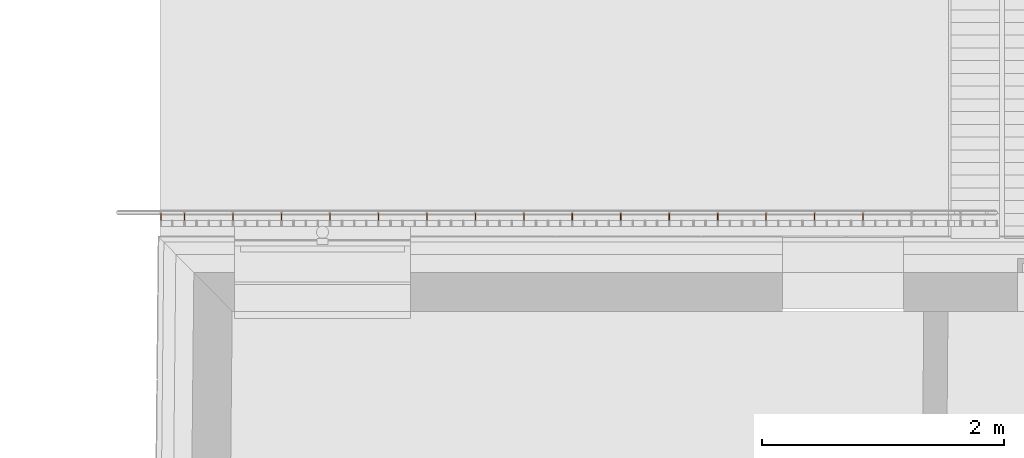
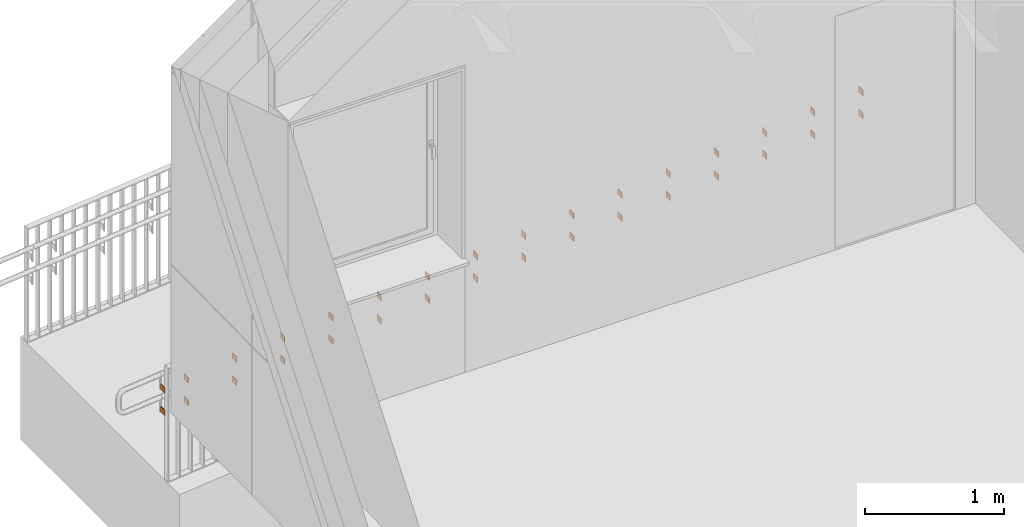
# One storey, part 377 of 418: 32 proxies.
"""IFC2X3 building model written with IfcOpenShell, lengths in millimetres."""

from ifc_helpers import new_model, entity, si_unit, converted_unit, derived_unit, money_unit, direction, frame, origin_with_axes, place, context, subcontext, project, spatial, polyline, outline, extrude, material, type_object, element, save


model = new_model("IFC2X3")

# Units and contexts
model_context = context("Model", 3, precision=0.01, world=origin_with_axes(), true_north=direction((0.0, 1.0)))
body_context = subcontext(model_context, "Body", "Model", "MODEL_VIEW")
ifc_project = project(units=[si_unit("LENGTHUNIT", "METRE", prefix="MILLI"), si_unit("AREAUNIT", "SQUARE_METRE"), si_unit("VOLUMEUNIT", "CUBIC_METRE"), converted_unit("PLANEANGLEUNIT", "DEGREE", entity("IfcPlaneAngleMeasure", 0.0174532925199), si_unit("PLANEANGLEUNIT", "RADIAN"), dimensions=[0, 0, 0, 0, 0, 0, 0]), si_unit("SOLIDANGLEUNIT", "STERADIAN"), money_unit("EUR"), converted_unit("TIMEUNIT", "Year", entity("IfcTimeMeasure", 31556926.0), si_unit("TIMEUNIT", "SECOND"), dimensions=[0, 0, 1, 0, 0, 0, 0]), si_unit("MASSUNIT", "GRAM", prefix="KILO"), si_unit("THERMODYNAMICTEMPERATUREUNIT", "DEGREE_CELSIUS"), si_unit("LUMINOUSINTENSITYUNIT", "LUMEN"), si_unit("ENERGYUNIT", "JOULE", prefix="MEGA"), derived_unit("THERMALCONDUCTANCEUNIT", [(si_unit("POWERUNIT", "WATT"), 1), (si_unit("LENGTHUNIT", "METRE"), -1), (si_unit("THERMODYNAMICTEMPERATUREUNIT", "KELVIN"), -1)]), derived_unit("SPECIFICHEATCAPACITYUNIT", [(si_unit("ENERGYUNIT", "JOULE"), 1), (si_unit("MASSUNIT", "GRAM", prefix="KILO"), -1), (si_unit("THERMODYNAMICTEMPERATUREUNIT", "KELVIN"), -1)]), derived_unit("MASSDENSITYUNIT", [(si_unit("MASSUNIT", "GRAM", prefix="KILO"), 1), (si_unit("VOLUMEUNIT", "CUBIC_METRE"), -1)])], contexts=[model_context])

# Site, building, storey
site_placement = place(None, origin_with_axes())
site = spatial("IfcSite", under=ifc_project, at=site_placement, Name="Paldiski mnt 245/1, Tallinn, Harjumaa", CompositionType="COMPLEX")
building_placement = place(site_placement, origin_with_axes())
building = spatial("IfcBuilding", under=site, at=building_placement, Name="RKAS Hoone üldnimetus (kasutust iseloomustav) -> IFC Project Manager -> SOLIBRI", CompositionType="ELEMENT")
storey_placement = place(building_placement, origin_with_axes())
storey = spatial("IfcBuildingStorey", under=building, at=storey_placement, Name="Esimene korrus", CompositionType="ELEMENT", Elevation=0.0)

# Proxies
ifc_material = material(Name="RAL 7011 Tumehall")
building_element_proxy_type = type_object("IfcBuildingElementProxyType", Name="RAL 7011 Tumehall 50", PredefinedType="NOTDEFINED")
proxy_1_placement = place(storey_placement, frame((-56120.6102369, 36519.8286725, 313.943433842), z_axis=(0.0, 0.0, 1.0), x_axis=(1.0, 0.0, 0.0)))
element("IfcBuildingElementProxy", 1, at=proxy_1_placement, inside=storey, type_object=building_element_proxy_type, material=ifc_material, Name="Piire", context=body_context, shape_type="SweptSolid", body=[
    extrude(outline(polyline([(0.0, 0.0), (0.0, 60.0), (-5.00000000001, 60.0), (-5.00000000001, 0.0), (0.0, 0.0)])), frame((0.0, 0.0, -50.0), z_axis=(0.0, 0.0, 1.0), x_axis=(1.0, 0.0, 0.0)), (0.0, 0.0, 1.0), 50.0),
])
proxy_2_placement = place(storey_placement, frame((-55320.5597323, 36519.8286725, 593.948553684), z_axis=(0.0, 0.0, 1.0), x_axis=(1.0, 0.0, 0.0)))
element("IfcBuildingElementProxy", 2, at=proxy_2_placement, inside=storey, type_object=building_element_proxy_type, material=ifc_material, Name="Piire", context=body_context, shape_type="SweptSolid", body=[
    extrude(outline(polyline([(0.0, 0.0), (0.0, 60.0), (-5.0, 60.0), (-5.0, 0.0), (0.0, 0.0)])), frame((0.0, 0.0, -50.0), z_axis=(0.0, 0.0, 1.0), x_axis=(1.0, 0.0, 0.0)), (0.0, 0.0, 1.0), 50.0),
])
proxy_3_placement = place(storey_placement, frame((-58920.66094, 36519.8286725, 33.9383634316), z_axis=(0.0, 0.0, 1.0), x_axis=(1.0, 0.0, 0.0)))
element("IfcBuildingElementProxy", 3, at=proxy_3_placement, inside=storey, type_object=building_element_proxy_type, material=ifc_material, Name="Piire", context=body_context, shape_type="SweptSolid", body=[
    extrude(outline(polyline([(0.0, 0.0), (0.0, 60.0), (-5.00000000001, 60.0), (-5.00000000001, 0.0), (0.0, 0.0)])), frame((0.0, 0.0, -50.0), z_axis=(0.0, 0.0, 1.0), x_axis=(1.0, 0.0, 0.0)), (0.0, 0.0, 1.0), 50.0),
])
for number, where, z_axis, x_axis in (
    (4, (-54920.6104354, 36519.8286725, 633.943483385), (0.0, 0.0, 1.0), (1.0, 0.0, 0.0)),
    (5, (-58920.6611385, 36519.8286725, 233.938412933), (0.0, 0.0, 1.0), (1.0, 0.0, 0.0)),
):
    element("IfcBuildingElementProxy", number, at=place(storey_placement, frame(where, z_axis=z_axis, x_axis=x_axis)), inside=storey, type_object=building_element_proxy_type, material=ifc_material, Name="Piire", context=body_context, shape_type="SweptSolid", body=[
        extrude(outline(polyline([(0.0, 0.0), (0.0, 60.0), (-5.0, 60.0), (-5.0, 0.0), (0.0, 0.0)])), frame((0.0, 0.0, -50.0), z_axis=(0.0, 0.0, 1.0), x_axis=(1.0, 0.0, 0.0)), (0.0, 0.0, 1.0), 50.0),
    ])
proxy_4_placement = place(storey_placement, frame((-54520.5595337, 36519.8286725, 473.948504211), z_axis=(0.0, 0.0, 1.0), x_axis=(1.0, 0.0, 0.0)))
element("IfcBuildingElementProxy", 6, at=proxy_4_placement, inside=storey, type_object=building_element_proxy_type, material=ifc_material, Name="Piire", context=body_context, shape_type="SweptSolid", body=[
    extrude(outline(polyline([(0.0, 0.0), (0.0, 60.0), (-5.00000000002, 60.0), (-5.00000000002, 0.0), (0.0, 0.0)])), frame((0.0, 0.0, -50.0), z_axis=(0.0, 0.0, 1.0), x_axis=(1.0, 0.0, 0.0)), (0.0, 0.0, 1.0), 50.0),
])
proxy_5_placement = place(storey_placement, frame((-58120.6611385, 36519.8286725, 313.938412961), z_axis=(0.0, 0.0, 1.0), x_axis=(1.0, 0.0, 0.0)))
element("IfcBuildingElementProxy", 7, at=proxy_5_placement, inside=storey, type_object=building_element_proxy_type, material=ifc_material, Name="Piire", context=body_context, shape_type="SweptSolid", body=[
    extrude(outline(polyline([(0.0, 0.0), (0.0, 60.0), (-5.0, 60.0), (-5.0, 0.0), (0.0, 0.0)])), frame((0.0, 0.0, -50.0), z_axis=(0.0, 0.0, 1.0), x_axis=(1.0, 0.0, 0.0)), (0.0, 0.0, 1.0), 50.0),
])
for number, where, z_axis, x_axis in (
    (8, (-58120.66094, 36519.8286725, 113.93836346), (0.0, 0.0, 1.0), (1.0, 0.0, 0.0)),
    (9, (-55720.6104354, 36519.8286725, 553.943483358), (0.0, 0.0, 1.0), (1.0, 0.0, 0.0)),
):
    element("IfcBuildingElementProxy", number, at=place(storey_placement, frame(where, z_axis=z_axis, x_axis=x_axis)), inside=storey, type_object=building_element_proxy_type, material=ifc_material, Name="Piire", context=body_context, shape_type="SweptSolid", body=[
        extrude(outline(polyline([(0.0, 0.0), (0.0, 60.0), (-5.00000000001, 60.0), (-5.00000000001, 0.0), (0.0, 0.0)])), frame((0.0, 0.0, -50.0), z_axis=(0.0, 0.0, 1.0), x_axis=(1.0, 0.0, 0.0)), (0.0, 0.0, 1.0), 50.0),
    ])
proxy_6_placement = place(storey_placement, frame((-55720.6102369, 36519.8286725, 353.943433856), z_axis=(0.0, 0.0, 1.0), x_axis=(1.0, 0.0, 0.0)))
element("IfcBuildingElementProxy", 10, at=proxy_6_placement, inside=storey, type_object=building_element_proxy_type, material=ifc_material, Name="Piire", context=body_context, shape_type="SweptSolid", body=[
    extrude(outline(polyline([(0.0, 0.0), (0.0, 60.0), (-5.00000000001, 60.0), (-5.0, 0.0), (0.0, 0.0)])), frame((0.0, 0.0, -50.0), z_axis=(0.0, 0.0, 1.0), x_axis=(1.0, 0.0, 0.0)), (0.0, 0.0, 1.0), 50.0),
])
for number, where, z_axis, x_axis in (
    (11, (-54520.5597323, 36519.8286725, 673.948553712), (0.0, 0.0, 1.0), (1.0, 0.0, 0.0)),
    (12, (-58520.6104354, 36519.8286725, 273.94348326), (0.0, 0.0, 1.0), (1.0, 0.0, 0.0)),
):
    element("IfcBuildingElementProxy", number, at=place(storey_placement, frame(where, z_axis=z_axis, x_axis=x_axis)), inside=storey, type_object=building_element_proxy_type, material=ifc_material, Name="Piire", context=body_context, shape_type="SweptSolid", body=[
        extrude(outline(polyline([(0.0, 0.0), (0.0, 60.0), (-5.0, 60.0), (-5.0, 0.0), (0.0, 0.0)])), frame((0.0, 0.0, -50.0), z_axis=(0.0, 0.0, 1.0), x_axis=(1.0, 0.0, 0.0)), (0.0, 0.0, 1.0), 50.0),
    ])
proxy_7_placement = place(storey_placement, frame((-58520.6102369, 36519.8286725, 73.9434337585), z_axis=(0.0, 0.0, 1.0), x_axis=(1.0, 0.0, 0.0)))
element("IfcBuildingElementProxy", 13, at=proxy_7_placement, inside=storey, type_object=building_element_proxy_type, material=ifc_material, Name="Piire", context=body_context, shape_type="SweptSolid", body=[
    extrude(outline(polyline([(0.0, 0.0), (0.0, 60.0), (-5.00000000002, 60.0), (-5.00000000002, 0.0), (0.0, 0.0)])), frame((0.0, 0.0, -50.0), z_axis=(0.0, 0.0, 1.0), x_axis=(1.0, 0.0, 0.0)), (0.0, 0.0, 1.0), 50.0),
])
proxy_8_placement = place(storey_placement, frame((-54920.6102369, 36519.8286725, 433.943433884), z_axis=(0.0, 0.0, 1.0), x_axis=(1.0, 0.0, 0.0)))
element("IfcBuildingElementProxy", 14, at=proxy_8_placement, inside=storey, type_object=building_element_proxy_type, material=ifc_material, Name="Piire", context=body_context, shape_type="SweptSolid", body=[
    extrude(outline(polyline([(0.0, 0.0), (0.0, 60.0), (-5.00000000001, 60.0), (-5.00000000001, 0.0), (0.0, 0.0)])), frame((0.0, 0.0, -50.0), z_axis=(0.0, 0.0, 1.0), x_axis=(1.0, 0.0, 0.0)), (0.0, 0.0, 1.0), 50.0),
])
proxy_9_placement = place(storey_placement, frame((-56120.6104354, 36519.8286725, 513.943483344), z_axis=(0.0, 0.0, 1.0), x_axis=(1.0, 0.0, 0.0)))
element("IfcBuildingElementProxy", 15, at=proxy_9_placement, inside=storey, type_object=building_element_proxy_type, material=ifc_material, Name="Piire", context=body_context, shape_type="SweptSolid", body=[
    extrude(outline(polyline([(0.0, 0.0), (0.0, 60.0), (-5.0, 60.0), (-5.0, 0.0), (0.0, 0.0)])), frame((0.0, 0.0, -50.0), z_axis=(0.0, 0.0, 1.0), x_axis=(1.0, 0.0, 0.0)), (0.0, 0.0, 1.0), 50.0),
])
proxy_10_placement = place(storey_placement, frame((-55320.5595337, 36519.8286725, 393.948504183), z_axis=(0.0, 0.0, 1.0), x_axis=(1.0, 0.0, 0.0)))
element("IfcBuildingElementProxy", 16, at=proxy_10_placement, inside=storey, type_object=building_element_proxy_type, material=ifc_material, Name="Piire", context=body_context, shape_type="SweptSolid", body=[
    extrude(outline(polyline([(0.0, 0.0), (0.0, 60.0), (-5.00000000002, 60.0), (-5.0, 0.0), (0.0, 0.0)])), frame((0.0, 0.0, -50.0), z_axis=(0.0, 0.0, 1.0), x_axis=(1.0, 0.0, 0.0)), (0.0, 0.0, 1.0), 50.0),
])
proxy_11_placement = place(storey_placement, frame((-54120.5597323, 36519.8286725, 713.948553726), z_axis=(0.0, 0.0, 1.0), x_axis=(1.0, 0.0, 0.0)))
element("IfcBuildingElementProxy", 17, at=proxy_11_placement, inside=storey, type_object=building_element_proxy_type, material=ifc_material, Name="Piire", context=body_context, shape_type="SweptSolid", body=[
    extrude(outline(polyline([(0.0, 0.0), (0.0, 60.0), (-5.0, 60.0), (-5.0, 0.0), (0.0, 0.0)])), frame((0.0, 0.0, -50.0), z_axis=(0.0, 0.0, 1.0), x_axis=(1.0, 0.0, 0.0)), (0.0, 0.0, 1.0), 50.0),
])
proxy_12_placement = place(storey_placement, frame((-57720.6102369, 36519.8286725, 153.943433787), z_axis=(0.0, 0.0, 1.0), x_axis=(1.0, 0.0, 0.0)))
element("IfcBuildingElementProxy", 18, at=proxy_12_placement, inside=storey, type_object=building_element_proxy_type, material=ifc_material, Name="Piire", context=body_context, shape_type="SweptSolid", body=[
    extrude(outline(polyline([(0.0, 0.0), (0.0, 60.0), (-5.00000000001, 60.0), (-5.00000000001, 0.0), (0.0, 0.0)])), frame((0.0, 0.0, -50.0), z_axis=(0.0, 0.0, 1.0), x_axis=(1.0, 0.0, 0.0)), (0.0, 0.0, 1.0), 50.0),
])
proxy_13_placement = place(storey_placement, frame((-57720.6104354, 36519.8286725, 353.943483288), z_axis=(0.0, 0.0, 1.0), x_axis=(1.0, 0.0, 0.0)))
element("IfcBuildingElementProxy", 19, at=proxy_13_placement, inside=storey, type_object=building_element_proxy_type, material=ifc_material, Name="Piire", context=body_context, shape_type="SweptSolid", body=[
    extrude(outline(polyline([(0.0, 0.0), (0.0, 60.0), (-5.0, 60.0), (-5.0, 0.0), (0.0, 0.0)])), frame((0.0, 0.0, -50.0), z_axis=(0.0, 0.0, 1.0), x_axis=(1.0, 0.0, 0.0)), (0.0, 0.0, 1.0), 50.0),
])
proxy_14_placement = place(storey_placement, frame((-59915.5595263, 36519.8286725, -65.5514952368), z_axis=(0.0, 0.0, 1.0), x_axis=(1.0, 0.0, 0.0)))
element("IfcBuildingElementProxy", 20, at=proxy_14_placement, inside=storey, type_object=building_element_proxy_type, material=ifc_material, Name="Piire", context=body_context, shape_type="SweptSolid", body=[
    extrude(outline(polyline([(0.0, 0.0), (0.0, 60.0), (-5.00000000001, 60.0), (-5.0, 0.0), (0.0, 0.0)])), frame((0.0, 0.0, -50.0), z_axis=(0.0, 0.0, 1.0), x_axis=(1.0, 0.0, 0.0)), (0.0, 0.0, 1.0), 50.0),
])
proxy_15_placement = place(storey_placement, frame((-59915.5597249, 36519.8286725, 134.448554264), z_axis=(0.0, 0.0, 1.0), x_axis=(1.0, 0.0, 0.0)))
element("IfcBuildingElementProxy", 21, at=proxy_15_placement, inside=storey, type_object=building_element_proxy_type, material=ifc_material, Name="Piire", context=body_context, shape_type="SweptSolid", body=[
    extrude(outline(polyline([(0.0, 0.0), (0.0, 60.0), (-5.0, 60.0), (-5.0, 0.0), (0.0, 0.0)])), frame((0.0, 0.0, -50.0), z_axis=(0.0, 0.0, 1.0), x_axis=(1.0, 0.0, 0.0)), (0.0, 0.0, 1.0), 50.0),
])
proxy_16_placement = place(storey_placement, frame((-54120.5595337, 36519.8286725, 513.948504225), z_axis=(0.0, 0.0, 1.0), x_axis=(1.0, 0.0, 0.0)))
element("IfcBuildingElementProxy", 22, at=proxy_16_placement, inside=storey, type_object=building_element_proxy_type, material=ifc_material, Name="Piire", context=body_context, shape_type="SweptSolid", body=[
    extrude(outline(polyline([(0.0, 0.0), (0.0, 60.0), (-5.00000000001, 60.0), (-5.0, 0.0), (0.0, 0.0)])), frame((0.0, 0.0, -50.0), z_axis=(0.0, 0.0, 1.0), x_axis=(1.0, 0.0, 0.0)), (0.0, 0.0, 1.0), 50.0),
])
proxy_17_placement = place(storey_placement, frame((-57320.6102369, 36519.8286725, 193.9434338), z_axis=(0.0, 0.0, 1.0), x_axis=(1.0, 0.0, 0.0)))
element("IfcBuildingElementProxy", 23, at=proxy_17_placement, inside=storey, type_object=building_element_proxy_type, material=ifc_material, Name="Piire", context=body_context, shape_type="SweptSolid", body=[
    extrude(outline(polyline([(0.0, 0.0), (0.0, 60.0), (-5.00000000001, 60.0), (-5.00000000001, 0.0), (0.0, 0.0)])), frame((0.0, 0.0, -50.0), z_axis=(0.0, 0.0, 1.0), x_axis=(1.0, 0.0, 0.0)), (0.0, 0.0, 1.0), 50.0),
])
proxy_18_placement = place(storey_placement, frame((-57320.6104354, 36519.8286725, 393.943483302), z_axis=(0.0, 0.0, 1.0), x_axis=(1.0, 0.0, 0.0)))
element("IfcBuildingElementProxy", 24, at=proxy_18_placement, inside=storey, type_object=building_element_proxy_type, material=ifc_material, Name="Piire", context=body_context, shape_type="SweptSolid", body=[
    extrude(outline(polyline([(0.0, 0.0), (0.0, 60.0), (-5.0, 60.0), (-5.0, 0.0), (0.0, 0.0)])), frame((0.0, 0.0, -50.0), z_axis=(0.0, 0.0, 1.0), x_axis=(1.0, 0.0, 0.0)), (0.0, 0.0, 1.0), 50.0),
])
proxy_19_placement = place(storey_placement, frame((-59720.7116431, 36519.8286725, -46.0667069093), z_axis=(0.0, 0.0, 1.0), x_axis=(1.0, 0.0, 0.0)))
element("IfcBuildingElementProxy", 25, at=proxy_19_placement, inside=storey, type_object=building_element_proxy_type, material=ifc_material, Name="Piire", context=body_context, shape_type="SweptSolid", body=[
    extrude(outline(polyline([(0.0, 0.0), (0.0, 60.0), (-5.00000000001, 60.0), (-5.00000000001, 0.0), (0.0, 0.0)])), frame((0.0, 0.0, -50.0), z_axis=(0.0, 0.0, 1.0), x_axis=(1.0, 0.0, 0.0)), (0.0, 0.0, 1.0), 50.0),
])
proxy_20_placement = place(storey_placement, frame((-59720.7118416, 36519.8286725, 153.933342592), z_axis=(0.0, 0.0, 1.0), x_axis=(1.0, 0.0, 0.0)))
element("IfcBuildingElementProxy", 26, at=proxy_20_placement, inside=storey, type_object=building_element_proxy_type, material=ifc_material, Name="Piire", context=body_context, shape_type="SweptSolid", body=[
    extrude(outline(polyline([(0.0, 0.0), (0.0, 60.0), (-5.0, 60.0), (-5.0, 0.0), (0.0, 0.0)])), frame((0.0, 0.0, -50.0), z_axis=(0.0, 0.0, 1.0), x_axis=(1.0, 0.0, 0.0)), (0.0, 0.0, 1.0), 50.0),
])
proxy_21_placement = place(storey_placement, frame((-56920.5595337, 36519.8286725, 233.948504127), z_axis=(0.0, 0.0, 1.0), x_axis=(1.0, 0.0, 0.0)))
element("IfcBuildingElementProxy", 27, at=proxy_21_placement, inside=storey, type_object=building_element_proxy_type, material=ifc_material, Name="Piire", context=body_context, shape_type="SweptSolid", body=[
    extrude(outline(polyline([(0.0, 0.0), (0.0, 60.0), (-5.00000000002, 60.0), (-5.00000000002, 0.0), (0.0, 0.0)])), frame((0.0, 0.0, -50.0), z_axis=(0.0, 0.0, 1.0), x_axis=(1.0, 0.0, 0.0)), (0.0, 0.0, 1.0), 50.0),
])
proxy_22_placement = place(storey_placement, frame((-56920.5597323, 36519.8286725, 433.948553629), z_axis=(0.0, 0.0, 1.0), x_axis=(1.0, 0.0, 0.0)))
element("IfcBuildingElementProxy", 28, at=proxy_22_placement, inside=storey, type_object=building_element_proxy_type, material=ifc_material, Name="Piire", context=body_context, shape_type="SweptSolid", body=[
    extrude(outline(polyline([(0.0, 0.0), (0.0, 60.0), (-5.0, 60.0), (-5.0, 0.0), (0.0, 0.0)])), frame((0.0, 0.0, -50.0), z_axis=(0.0, 0.0, 1.0), x_axis=(1.0, 0.0, 0.0)), (0.0, 0.0, 1.0), 50.0),
])
proxy_23_placement = place(storey_placement, frame((-59320.66094, 36519.8286725, -6.06163658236), z_axis=(0.0, 0.0, 1.0), x_axis=(1.0, 0.0, 0.0)))
element("IfcBuildingElementProxy", 29, at=proxy_23_placement, inside=storey, type_object=building_element_proxy_type, material=ifc_material, Name="Piire", context=body_context, shape_type="SweptSolid", body=[
    extrude(outline(polyline([(0.0, 0.0), (0.0, 60.0), (-5.00000000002, 60.0), (-5.00000000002, 0.0), (0.0, 0.0)])), frame((0.0, 0.0, -50.0), z_axis=(0.0, 0.0, 1.0), x_axis=(1.0, 0.0, 0.0)), (0.0, 0.0, 1.0), 50.0),
])
proxy_24_placement = place(storey_placement, frame((-59320.6611385, 36519.8286725, 193.938412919), z_axis=(0.0, 0.0, 1.0), x_axis=(1.0, 0.0, 0.0)))
element("IfcBuildingElementProxy", 30, at=proxy_24_placement, inside=storey, type_object=building_element_proxy_type, material=ifc_material, Name="Piire", context=body_context, shape_type="SweptSolid", body=[
    extrude(outline(polyline([(0.0, 0.0), (0.0, 60.0), (-5.0, 60.0), (-5.0, 0.0), (0.0, 0.0)])), frame((0.0, 0.0, -50.0), z_axis=(0.0, 0.0, 1.0), x_axis=(1.0, 0.0, 0.0)), (0.0, 0.0, 1.0), 50.0),
])
proxy_25_placement = place(storey_placement, frame((-56520.66094, 36519.8286725, 273.938363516), z_axis=(0.0, 0.0, 1.0), x_axis=(1.0, 0.0, 0.0)))
element("IfcBuildingElementProxy", 31, at=proxy_25_placement, inside=storey, type_object=building_element_proxy_type, material=ifc_material, Name="Piire", context=body_context, shape_type="SweptSolid", body=[
    extrude(outline(polyline([(0.0, 0.0), (0.0, 60.0), (-5.00000000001, 60.0), (-5.00000000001, 0.0), (0.0, 0.0)])), frame((0.0, 0.0, -50.0), z_axis=(0.0, 0.0, 1.0), x_axis=(1.0, 0.0, 0.0)), (0.0, 0.0, 1.0), 50.0),
])
proxy_26_placement = place(storey_placement, frame((-56520.6611385, 36519.8286725, 473.938413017), z_axis=(0.0, 0.0, 1.0), x_axis=(1.0, 0.0, 0.0)))
element("IfcBuildingElementProxy", 32, at=proxy_26_placement, inside=storey, type_object=building_element_proxy_type, material=ifc_material, Name="Piire", context=body_context, shape_type="SweptSolid", body=[
    extrude(outline(polyline([(0.0, 0.0), (0.0, 60.0), (-5.0, 60.0), (-5.0, 0.0), (0.0, 0.0)])), frame((0.0, 0.0, -50.0), z_axis=(0.0, 0.0, 1.0), x_axis=(1.0, 0.0, 0.0)), (0.0, 0.0, 1.0), 50.0),
])

save(model, "model.ifc")
